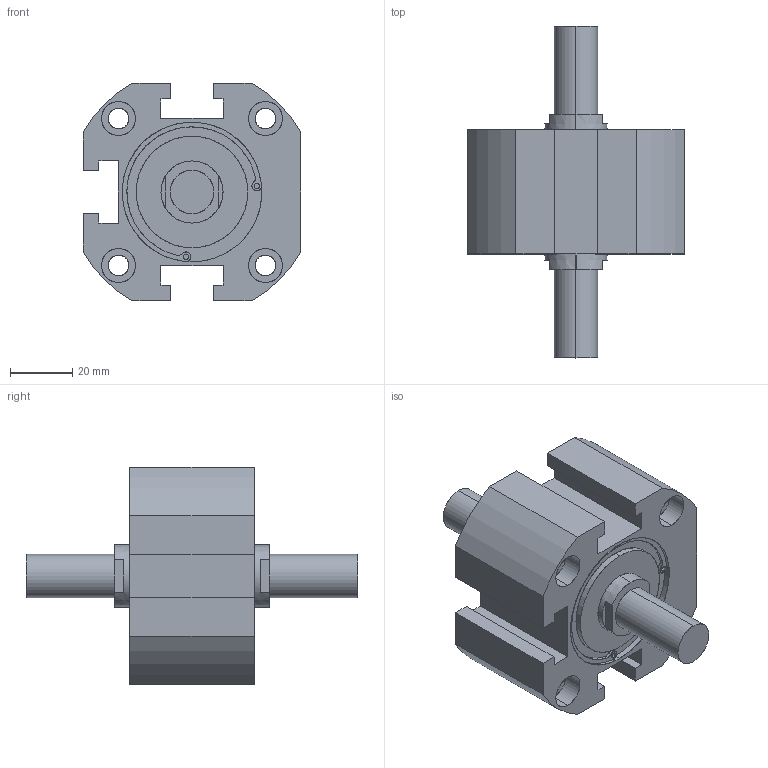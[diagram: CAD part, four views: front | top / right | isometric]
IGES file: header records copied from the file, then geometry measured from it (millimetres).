
Start section: SolidWorks IGES file using analytic representation for surfaces
Global section: file name: C:\Users\Toshiba\Desktop\XC#M7-50-10.IGS; native system: SolidWorks 2014; preprocessor: SolidWorks 2014; author: Toshiba; date: 160523.170330; units: millimetre
Bounding box: 70 x 107 x 70 mm (x, y, z)
Surface area: 30369.9 mm2 (no closed solid volume)
Topology: 0 solids, 0 shells, 147 faces, 2766 edges, 2762 vertices
Faces by surface type: revolution 85, bspline 62
